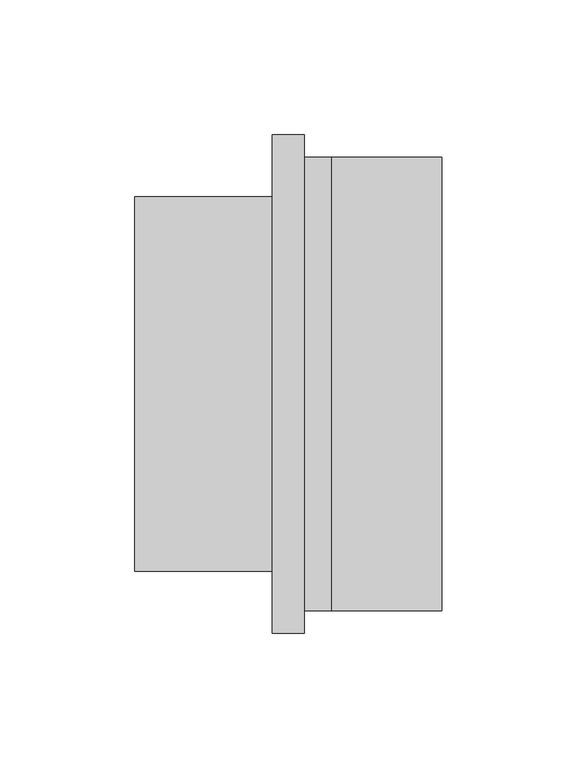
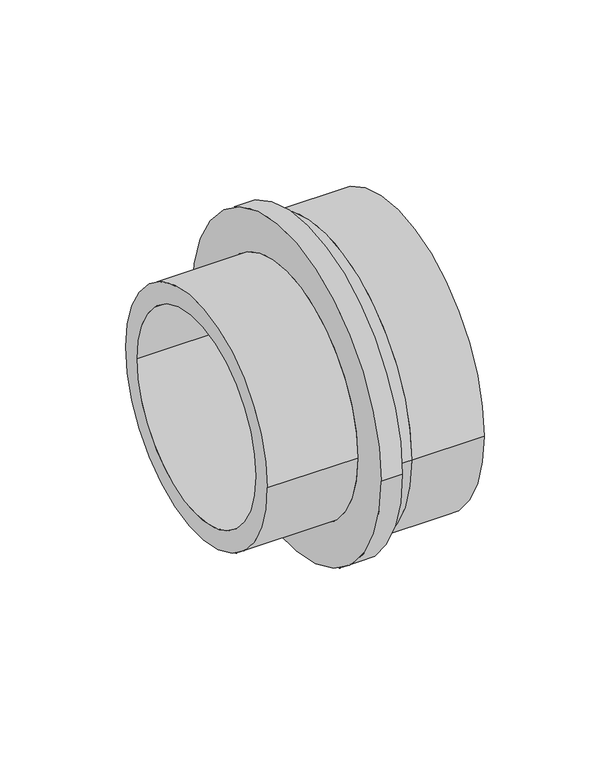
"""IFC4 building model written with IfcOpenShell, lengths in millimetres: pipe fitting geometry, Adapter with welding end : A welding RX."""

from ifc_helpers import new_model, si_unit, point, frame, origin, origin_2d, place, context, project, spatial, polyline, circle_curve, trimmed, segment, composite_curve, outline, extrude, source, transform, mapped, element, save
from ifc_brep_helpers import plane_surface, cylinder_surface, revolved_surface, advanced_brep


def pipe_fitting_73d6fd9a(model_context):
    return source(origin(), model_context, "Body", "SolidModel", [
        advanced_brep(
        [(0.0, 84.2, 0.0), (0.0, -84.2, 0.0), (-10.0, -84.2, 0.0), (-10.0, 84.2, 0.0), (-10.0, 80.05, 0.0), (-10.0, -80.05, 0.0), (0.0, -80.05, 0.0), (0.0, 80.05, 0.0), (-73.0, 58.0, 0.0), (-73.0, -58.0, 0.0), (-10.0, -58.0, 0.0), (-10.0, 58.0, 0.0), (-22.0, 69.5, 0.0), (-22.0, -69.5, 0.0), (-73.0, -69.5, 0.0), (-73.0, 69.5, 0.0), (-10.0, 92.5, 0.0), (-10.0, -92.5, 0.0), (-22.0, -92.5, 0.0), (-22.0, 92.5, 0.0)],
        [
            (0, 1, circle_curve(frame((0.0, 0.0, 0.0), z_axis=(-1.0, 0.0, 0.0), x_axis=(0.0, -1.0, 0.0)), 84.2)),
            (1, 2),
            (2, 3, circle_curve(frame((-10.0, 0.0, 0.0), z_axis=(1.0, 0.0, 0.0), x_axis=(0.0, -1.0, 0.0)), 84.2)),
            (3, 0),
            (4, 5, circle_curve(frame((-10.0, 0.0, 0.0), z_axis=(-1.0, 0.0, 0.0), x_axis=(0.0, -1.0, 0.0)), 80.05)),
            (5, 6),
            (6, 7, circle_curve(frame((0.0, 0.0, 0.0), z_axis=(1.0, 0.0, 0.0), x_axis=(0.0, -1.0, 0.0)), 80.05)),
            (7, 4),
            (8, 9, circle_curve(frame((-73.0, 0.0, 0.0), z_axis=(-1.0, 0.0, 0.0), x_axis=(0.0, -1.0, 0.0)), 58.0)),
            (9, 10),
            (10, 11, circle_curve(frame((-10.0, 0.0, 0.0), z_axis=(1.0, 0.0, 0.0), x_axis=(0.0, -1.0, 0.0)), 58.0)),
            (11, 8),
            (12, 13, circle_curve(frame((-22.0, 0.0, 0.0), z_axis=(-1.0, 0.0, 0.0), x_axis=(0.0, -1.0, 0.0)), 69.5)),
            (13, 14),
            (14, 15, circle_curve(frame((-73.0, 0.0, 0.0), z_axis=(1.0, 0.0, 0.0), x_axis=(0.0, -1.0, 0.0)), 69.5)),
            (15, 12),
            (16, 17, circle_curve(frame((-10.0, 0.0, 0.0), z_axis=(-1.0, 0.0, 0.0), x_axis=(0.0, -1.0, 0.0)), 92.5)),
            (17, 18),
            (18, 19, circle_curve(frame((-22.0, 0.0, 0.0), z_axis=(1.0, 0.0, 0.0), x_axis=(0.0, -1.0, 0.0)), 92.5)),
            (19, 16),
            (16, 17, circle_curve(frame((-10.0, 0.0, 0.0), z_axis=(1.0, 0.0, 0.0), x_axis=(0.0, 1.0, 0.0)), 92.5)),
            (2, 3, circle_curve(frame((-10.0, 0.0, 0.0), z_axis=(-1.0, 0.0, 0.0), x_axis=(0.0, 1.0, 0.0)), 84.2)),
            (1, 0, circle_curve(frame((0.0, 0.0, 0.0), z_axis=(-1.0, 0.0, 0.0), x_axis=(0.0, 1.0, 0.0)), 84.2)),
            (6, 7, circle_curve(frame((0.0, 0.0, 0.0), z_axis=(-1.0, 0.0, 0.0), x_axis=(0.0, 1.0, 0.0)), 80.05)),
            (5, 4, circle_curve(frame((-10.0, 0.0, 0.0), z_axis=(-1.0, 0.0, 0.0), x_axis=(0.0, 1.0, 0.0)), 80.05)),
            (10, 11, circle_curve(frame((-10.0, 0.0, 0.0), z_axis=(-1.0, 0.0, 0.0), x_axis=(0.0, 1.0, 0.0)), 58.0)),
            (9, 8, circle_curve(frame((-73.0, 0.0, 0.0), z_axis=(-1.0, 0.0, 0.0), x_axis=(0.0, 1.0, 0.0)), 58.0)),
            (14, 15, circle_curve(frame((-73.0, 0.0, 0.0), z_axis=(-1.0, 0.0, 0.0), x_axis=(0.0, 1.0, 0.0)), 69.5)),
            (13, 12, circle_curve(frame((-22.0, 0.0, 0.0), z_axis=(-1.0, 0.0, 0.0), x_axis=(0.0, 1.0, 0.0)), 69.5)),
            (18, 19, circle_curve(frame((-22.0, 0.0, 0.0), z_axis=(-1.0, 0.0, 0.0), x_axis=(0.0, 1.0, 0.0)), 92.5)),
        ],
        [
            cylinder_surface(frame((0.0, 0.0, 0.0), z_axis=(1.0, 0.0, 0.0), x_axis=(0.0, -1.0, 0.0)), 84.2),
            revolved_surface(polyline([(0.0, -80.05, 0.0), (-10.0, -80.05, 0.0)]), (0.0, 0.0, 0.0), (1.0, 0.0, 0.0)),
            revolved_surface(polyline([(-10.0, -58.0, 0.0), (-73.0, -58.0, 0.0)]), (0.0, 0.0, 0.0), (1.0, 0.0, 0.0)),
            cylinder_surface(frame((0.0, 0.0, 0.0), z_axis=(1.0, 0.0, 0.0), x_axis=(0.0, -1.0, 0.0)), 69.5),
            cylinder_surface(frame((0.0, 0.0, 0.0), z_axis=(1.0, 0.0, 0.0), x_axis=(0.0, -1.0, 0.0)), 92.5),
            plane_surface(frame((-10.0, 0.0, 0.0), z_axis=(1.0, 0.0, 0.0), x_axis=(0.0, 1.0, 0.0))),
            cylinder_surface(frame((0.0, 0.0, 0.0), z_axis=(1.0, 0.0, 0.0), x_axis=(0.0, 1.0, 0.0)), 84.2),
            plane_surface(frame((0.0, 0.0, 0.0), z_axis=(1.0, 0.0, 0.0), x_axis=(0.0, 1.0, 0.0))),
            revolved_surface(polyline([(0.0, 80.05, 0.0), (-10.0, 80.05, 0.0)]), (0.0, 0.0, 0.0), (1.0, 0.0, 0.0)),
            revolved_surface(polyline([(-10.0, 58.0, 0.0), (-73.0, 58.0, 0.0)]), (0.0, 0.0, 0.0), (1.0, 0.0, 0.0)),
            plane_surface(frame((-73.0, 0.0, 0.0), z_axis=(-1.0, 0.0, 0.0), x_axis=(0.0, 1.0, 0.0))),
            cylinder_surface(frame((0.0, 0.0, 0.0), z_axis=(1.0, 0.0, 0.0), x_axis=(0.0, 1.0, 0.0)), 69.5),
            plane_surface(frame((-22.0, 0.0, 0.0), z_axis=(-1.0, 0.0, 0.0), x_axis=(0.0, 1.0, 0.0))),
            cylinder_surface(frame((0.0, 0.0, 0.0), z_axis=(1.0, 0.0, 0.0), x_axis=(0.0, 1.0, 0.0)), 92.5),
        ],
        [
            (0, [[1, 2, 3, 4]]),
            (1, [[5, 6, 7, 8]]),
            (2, [[9, 10, 11, 12]]),
            (3, [[13, 14, 15, 16]]),
            (4, [[17, 18, 19, 20]]),
            (5, [[21, -17], [22, -3]]),
            (6, [[23, -4, -22, -2]]),
            (7, [[-23, -1], [24, -7]]),
            (8, [[25, -8, -24, -6]]),
            (5, [[-25, -5], [26, -11]]),
            (9, [[27, -12, -26, -10]]),
            (10, [[28, -15], [-27, -9]]),
            (11, [[29, -16, -28, -14]]),
            (12, [[30, -19], [-29, -13]]),
            (13, [[-21, -20, -30, -18]]),
        ],
    ),
        extrude(outline(composite_curve([segment(trimmed(circle_curve(origin_2d(), 84.2), [point((-84.2, 0.0))], [point((84.2, 0.0))], False, "CARTESIAN"), True, "CONTINUOUS"), segment(trimmed(circle_curve(origin_2d(), 84.2), [point((84.2, 0.0))], [point((-84.2, 0.0))], False, "CARTESIAN"), True, "CONTINUOUS")], self_intersect=False), holes=[composite_curve([segment(trimmed(circle_curve(origin_2d(), 80.05), [point((80.05, 0.0))], [point((-80.05, 0.0))], True, "CARTESIAN"), True, "CONTINUOUS"), segment(trimmed(circle_curve(origin_2d(), 80.05), [point((-80.05, 0.0))], [point((80.05, 0.0))], True, "CARTESIAN"), True, "CONTINUOUS")], self_intersect=False)]), frame((0.0, 0.0, 0.0), z_axis=(1.0, 0.0, 0.0), x_axis=(0.0, 1.0, 0.0)), (0.0, 0.0, 1.0), 41.0),
    ])


if __name__ == "__main__":
    model = new_model("IFC4")
    model_context = context("Model", 3, world=origin())
    ifc_project = project(units=[si_unit("LENGTHUNIT", "METRE", prefix="MILLI")], contexts=[model_context])
    site = spatial("IfcSite", under=ifc_project)
    building = spatial("IfcBuilding", under=site)
    placement = place(None, origin())
    pipe_fitting_shape = pipe_fitting_73d6fd9a(model_context)
    element("IfcPipeFitting", 1, ObjectType="Adapter with welding end : A welding RX", at=placement, inside=building, context=model_context, shape_type="MappedRepresentation", body=[
        mapped(pipe_fitting_shape, transform((0.0, 0.0, 0.0), x_axis=(1.0, 0.0, 0.0), y_axis=(0.0, 1.0, 0.0), z_axis=(0.0, 0.0, 1.0))),
    ])
    save(model, "model.ifc")
